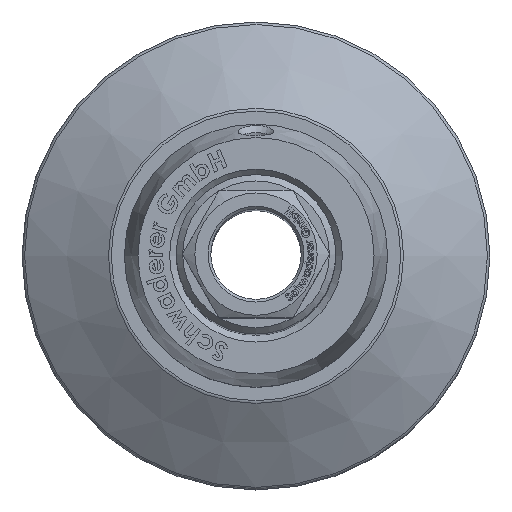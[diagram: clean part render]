
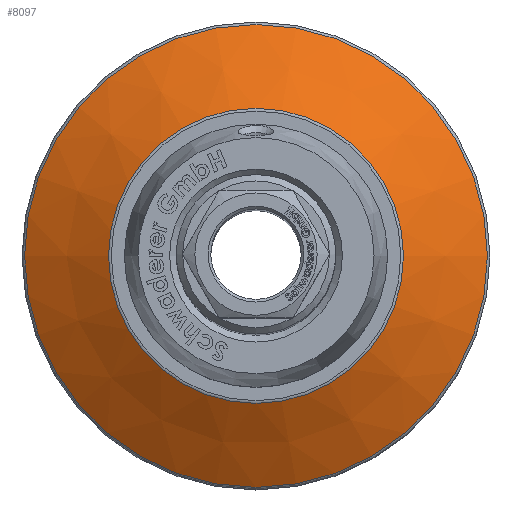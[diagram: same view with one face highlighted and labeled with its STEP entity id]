
A CAD part, top view. The second image highlights one B-rep face of the part: STEP entity #8097.
In plain terms, the highlighted conical face has half-angle 58.782 degrees and reference radius 35.75 mm.
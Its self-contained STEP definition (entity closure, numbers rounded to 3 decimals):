
#2397=CONICAL_SURFACE('',#8583,35.75,58.782);
#2415=FACE_BOUND('',#2981,.T.);
#2500=FACE_OUTER_BOUND('',#2980,.T.);
#2980=EDGE_LOOP('',(#5655));
#2981=EDGE_LOOP('',(#5656));
#3542=CIRCLE('',#8581,27.739);
#3544=CIRCLE('',#8584,43.518);
#3609=VERTEX_POINT('',#10408);
#3611=VERTEX_POINT('',#10413);
#4433=EDGE_CURVE('',#3609,#3609,#3542,.T.);
#4435=EDGE_CURVE('',#3611,#3611,#3544,.T.);
#5655=ORIENTED_EDGE('',*,*,#4435,.F.);
#5656=ORIENTED_EDGE('',*,*,#4433,.F.);
#8097=ADVANCED_FACE('',(#2500,#2415),#2397,.T.);
#8581=AXIS2_PLACEMENT_3D('',#10409,#8942,#8943);
#8583=AXIS2_PLACEMENT_3D('',#10412,#8946,#8947);
#8584=AXIS2_PLACEMENT_3D('',#10414,#8948,#8949);
#8942=DIRECTION('center_axis',(0.,0.,
1.));
#8943=DIRECTION('ref_axis',(-1.,0.,0.));
#8946=DIRECTION('center_axis',(0.,0.,-1.));
#8947=DIRECTION('ref_axis',(1.,0.,0.));
#8948=DIRECTION('center_axis',(0.,0.,
-1.));
#8949=DIRECTION('ref_axis',(-1.,0.,0.));
#10408=CARTESIAN_POINT('',(27.739,0.,-24.012));
#10409=CARTESIAN_POINT('Origin',(0.,0.,
-24.012));
#10412=CARTESIAN_POINT('Origin',(0.,0.,-28.867));
#10413=CARTESIAN_POINT('',(43.518,0.,-33.575));
#10414=CARTESIAN_POINT('Origin',(0.,0.,
-33.575));
